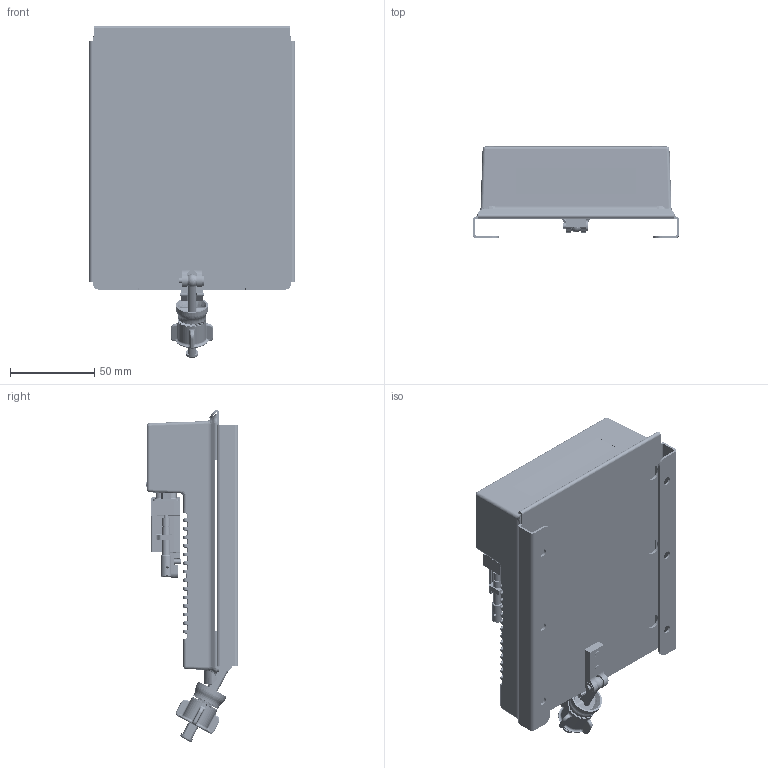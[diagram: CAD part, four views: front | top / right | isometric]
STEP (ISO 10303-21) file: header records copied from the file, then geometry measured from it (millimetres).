
FILE_DESCRIPTION (( 'STEP AP203' ), '1' );
FILE_NAME ('GEA110_011-03454-00_R[011-03941-00]_C[011-0327-50]_Rev1.STEP', '2021-10-28T18:29:26', ( '' ), ( '' ), 'SwSTEP 2.0', 'SolidWorks 2019', '' );
FILE_SCHEMA (( 'CONFIG_CONTROL_DESIGN' ));
Products named in the file (1): GEA110_011-03454-00_R[011-03941-00]_C[011-0327-50]_Rev1
Bounding box: 121.92 x 54.61 x 196.52 mm (x, y, z)
Volume: 486040.7 mm3; surface area: 146309.5 mm2
Topology: 4 solids, 23 shells, 6244 faces, 15772 edges, 9994 vertices
Faces by surface type: plane 2461, cylinder 1692, bspline 1338, cone 452, sphere 186, torus 115
Entity records: 319855 total; most frequent: CARTESIAN_POINT 183972, ORIENTED_EDGE 30800, DIRECTION 24042, EDGE_CURVE 15400, VERTEX_POINT 9838, AXIS2_PLACEMENT_3D 8513, LINE 7016, VECTOR 7016
